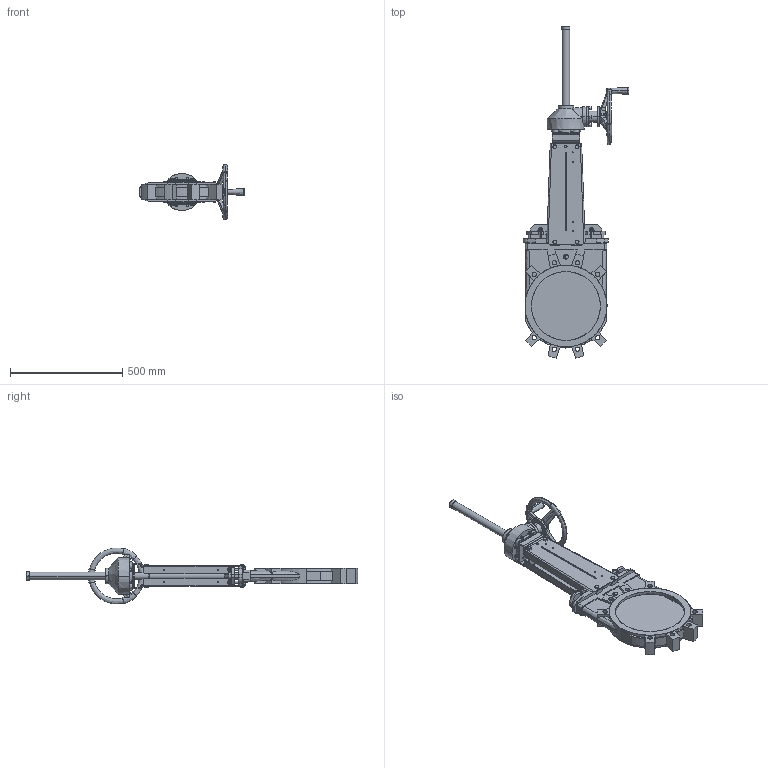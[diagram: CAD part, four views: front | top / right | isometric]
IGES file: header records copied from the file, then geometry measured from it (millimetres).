
Start section: SolidWorks IGES file using analytic representation for surfaces
Global section: file name: D:\part\3D Projects\VG-GEAR BOX ACTUATOR(DN50-DN6000\VG G DN300\VG G DN300.IGS; native system: SolidWorks 2009; preprocessor: SolidWorks 2009; author: zhixin.zheng; date: 100422.165503; units: millimetre
Bounding box: 470 x 1482.05 x 249.87 mm (x, y, z)
Surface area: 1422854.8 mm2 (no closed solid volume)
Topology: 0 solids, 0 shells, 1070 faces, 11970 edges, 11969 vertices
Faces by surface type: bspline 670, revolution 400
